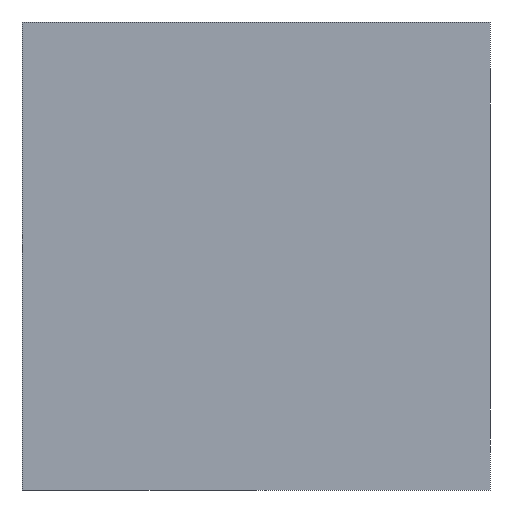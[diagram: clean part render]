
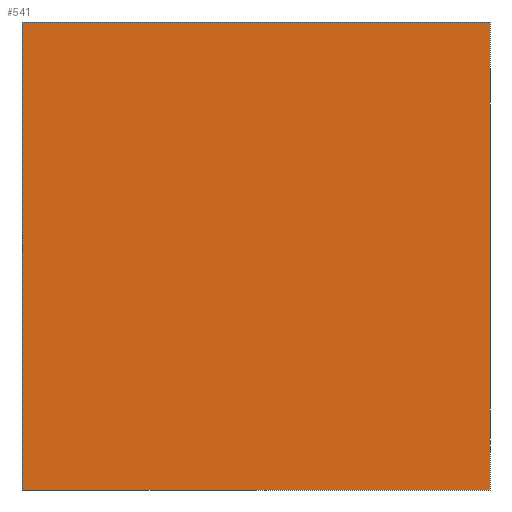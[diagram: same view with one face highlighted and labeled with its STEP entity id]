
A CAD part, left-side view. The second image highlights one B-rep face of the part: STEP entity #541.
In plain terms, the highlighted planar face has unit normal (-1, 0, 0).
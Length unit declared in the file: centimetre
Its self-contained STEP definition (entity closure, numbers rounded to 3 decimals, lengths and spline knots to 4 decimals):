
#3 = LINE ( 'NONE', #544, #104 ) ;
#6 = CARTESIAN_POINT ( 'NONE',  ( 0., 1000., 0. ) ) ;
#30 = VERTEX_POINT ( 'NONE', #363 ) ;
#35 = DIRECTION ( 'NONE',  ( 1., 0., 0. ) ) ;
#42 = EDGE_CURVE ( 'NONE', #122, #165, #3, .T. ) ;
#44 = CARTESIAN_POINT ( 'NONE',  ( 0., 1000., 0. ) ) ;
#73 = CARTESIAN_POINT ( 'NONE',  ( 0., 0., 1000. ) ) ;
#88 = AXIS2_PLACEMENT_3D ( 'NONE', #410, #35, #447 ) ;
#91 = LINE ( 'NONE', #6, #478 ) ;
#104 = VECTOR ( 'NONE', #249, 100. ) ;
#120 = CARTESIAN_POINT ( 'NONE',  ( 0., 1000., 1000. ) ) ;
#122 = VERTEX_POINT ( 'NONE', #120 ) ;
#165 = VERTEX_POINT ( 'NONE', #44 ) ;
#177 = DIRECTION ( 'NONE',  ( 0., -1., 0. ) ) ;
#183 = EDGE_CURVE ( 'NONE', #165, #30, #91, .T. ) ;
#208 = ORIENTED_EDGE ( 'NONE', *, *, #377, .F. ) ;
#221 = DIRECTION ( 'NONE',  ( 0., -1., 0. ) ) ;
#243 = EDGE_CURVE ( 'NONE', #122, #416, #421, .T. ) ;
#249 = DIRECTION ( 'NONE',  ( 0., 0., -1. ) ) ;
#254 = DIRECTION ( 'NONE',  ( 0., 0., -1. ) ) ;
#360 = FACE_OUTER_BOUND ( 'NONE', #455, .T. ) ;
#363 = CARTESIAN_POINT ( 'NONE',  ( 0., 0., 0. ) ) ;
#377 = EDGE_CURVE ( 'NONE', #416, #30, #536, .T. ) ;
#399 = PLANE ( 'NONE',  #88 ) ;
#410 = CARTESIAN_POINT ( 'NONE',  ( 0., 1000., 1000. ) ) ;
#413 = ORIENTED_EDGE ( 'NONE', *, *, #42, .T. ) ;
#416 = VERTEX_POINT ( 'NONE', #429 ) ;
#418 = VECTOR ( 'NONE', #221, 100. ) ;
#421 = LINE ( 'NONE', #428, #418 ) ;
#428 = CARTESIAN_POINT ( 'NONE',  ( 0., 1000., 1000. ) ) ;
#429 = CARTESIAN_POINT ( 'NONE',  ( 0., 0., 1000. ) ) ;
#440 = ORIENTED_EDGE ( 'NONE', *, *, #183, .T. ) ;
#447 = DIRECTION ( 'NONE',  ( 0., 0., -1. ) ) ;
#455 = EDGE_LOOP ( 'NONE', ( #440, #208, #530, #413 ) ) ;
#478 = VECTOR ( 'NONE', #177, 100. ) ;
#530 = ORIENTED_EDGE ( 'NONE', *, *, #243, .F. ) ;
#536 = LINE ( 'NONE', #73, #547 ) ;
#541 = ADVANCED_FACE ( 'NONE', ( #360 ), #399, .F. ) ;
#544 = CARTESIAN_POINT ( 'NONE',  ( 0., 1000., 1000. ) ) ;
#547 = VECTOR ( 'NONE', #254, 100. ) ;
